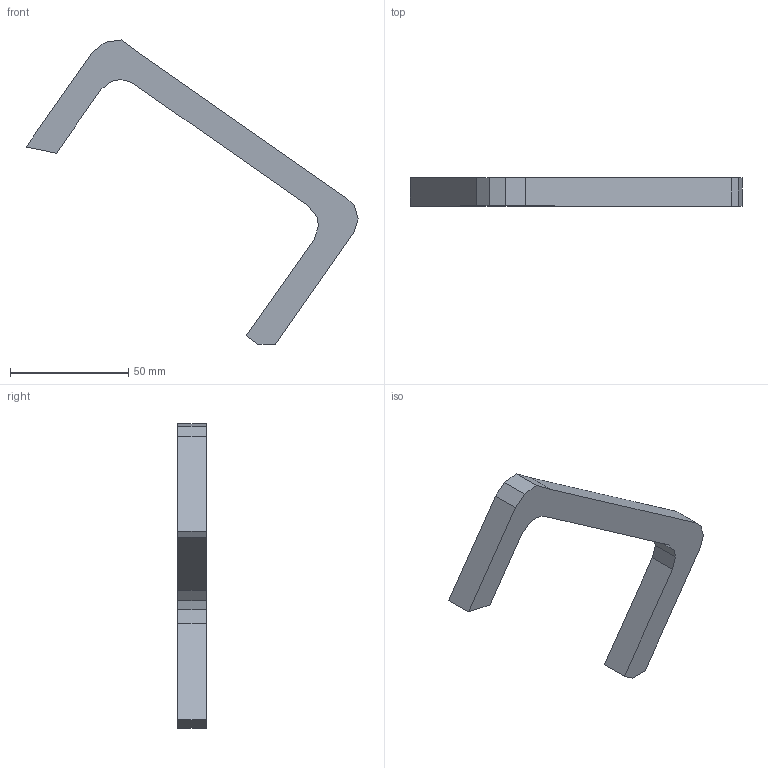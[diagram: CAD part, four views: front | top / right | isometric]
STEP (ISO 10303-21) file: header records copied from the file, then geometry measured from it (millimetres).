
FILE_DESCRIPTION(('Open CASCADE Model'),'2;1');
FILE_NAME('Open CASCADE Shape Model','2026-10-20T13:19:35',('Author'),( 'Open CASCADE'),'Open CASCADE STEP processor 7.9','Open CASCADE 7.9' ,'Unknown');
FILE_SCHEMA(('AUTOMOTIVE_DESIGN { 1 0 10303 214 1 1 1 1 }'));
Length unit declared in the file: millimetre
Products named in the file (1): Open CASCADE STEP translator 7.9 70
Bounding box: 140.25 x 12 x 128.51 mm (x, y, z)
Volume: 34307.7 mm3; surface area: 11516.9 mm2
Topology: 1 solids, 1 shells, 24 faces, 66 edges, 44 vertices
Faces by surface type: plane 24
Entity records: 1618 total; most frequent: CARTESIAN_POINT 267, DIRECTION 248, LINE 198, VECTOR 198, ORIENTED_EDGE 132, PCURVE 132, DEFINITIONAL_REPRESENTATION 132, EDGE_CURVE 66
